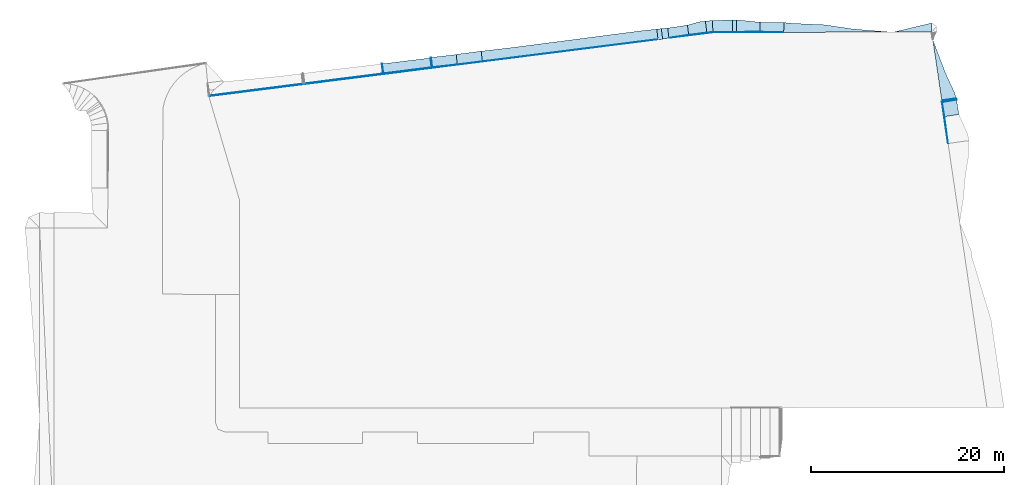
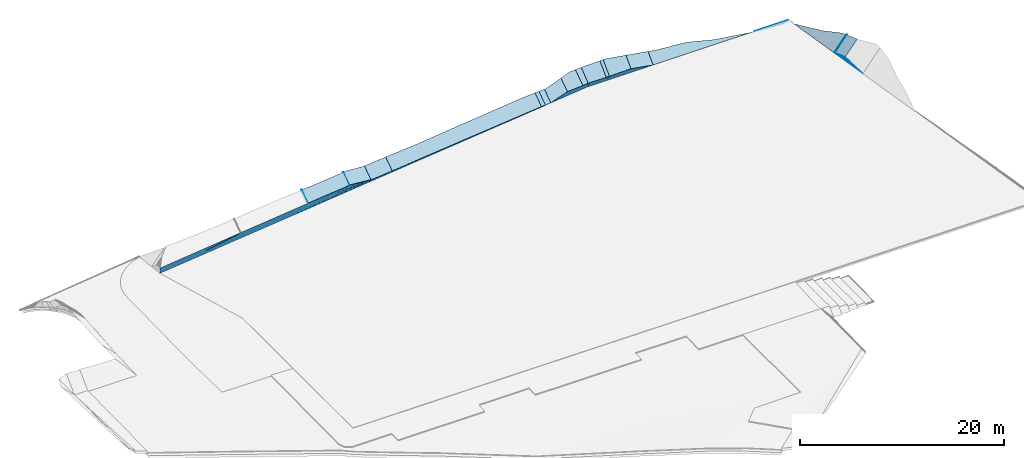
# One storey, part 6 of 14: 25 slabs.
"""IFC2X3 building model written with IfcOpenShell, lengths in metres."""

import ifcopenshell
import ifcopenshell.guid

model = None  # the IFC model being written
_history = None  # IfcOwnerHistory: only IFC2X3 demands one
_inside = {}  # id of a spatial element -> (the spatial element, [elements in it])
_under = {}  # id of a project, library or spatial element -> (it, [spatial elements below it])
_declared = {}  # id of a project -> (the project, [libraries it declares])
_typed = {}  # id of a type object -> (the type object, [elements of that type])
_made_of = {}  # id of a material, layer set ... -> (it, [elements and type objects made of it])


def new_model(schema):
    """Start an empty IFC model of exactly this schema.

    Asked for "IFC4X3", IfcOpenShell would pick the latest addendum, in which some entities
    have other attributes; the version numbers below select the first issue.
    IFC2X3 requires an IfcOwnerHistory on every rooted entity: one is made here for all.
    """
    global model, _history
    if schema == "IFC4X3":
        model = ifcopenshell.file(schema_version=(4, 3, 0, 0))
    else:
        model = ifcopenshell.file(schema=schema)
    _inside.clear()
    _under.clear()
    _declared.clear()
    _typed.clear()
    _made_of.clear()
    _history = None
    if model.schema == "IFC2X3":
        org = make("IfcOrganization", Name="unknown")
        user = make(
            "IfcPersonAndOrganization",
            ThePerson=make("IfcPerson", FamilyName="unknown"),
            TheOrganization=org,
        )
        app = make(
            "IfcApplication",
            ApplicationDeveloper=org,
            Version="unknown",
            ApplicationFullName="unknown",
            ApplicationIdentifier="unknown",
        )
        _history = make(
            "IfcOwnerHistory",
            OwningUser=user,
            OwningApplication=app,
            ChangeAction="ADDED",
            CreationDate=0,
        )
    return model


def make(cls, **values):
    """One entity of the class cls with the attributes given. An attribute that is None is left unset."""
    return model.create_entity(
        cls, **{name: value for name, value in values.items() if value is not None}
    )


def rooted(cls, **values):
    """An entity with a GlobalId (a new one), such as an element, a storey or a relation."""
    return make(cls, GlobalId=ifcopenshell.guid.new(), OwnerHistory=_history, **values)


def si_unit(unit_type, name, prefix=None):
    """IfcSIUnit, for example si_unit("LENGTHUNIT", "METRE", prefix="MILLI")."""
    return make("IfcSIUnit", UnitType=unit_type, Prefix=prefix, Name=name)


def assignment(units):
    """IfcUnitAssignment: the units of a project."""
    return None if units is None else make("IfcUnitAssignment", Units=units)


def point(xyz):
    """IfcCartesianPoint."""
    return None if xyz is None else make("IfcCartesianPoint", Coordinates=xyz)


def direction(xyz):
    """IfcDirection."""
    return None if xyz is None else make("IfcDirection", DirectionRatios=xyz)


def frame(location, z_axis=None, x_axis=None):
    """IfcAxis2Placement3D, a coordinate frame: its origin and axes. An axis left out is left unset."""
    return make(
        "IfcAxis2Placement3D",
        Location=point(location),
        Axis=direction(z_axis),
        RefDirection=direction(x_axis),
    )


def origin():
    """The frame at (0, 0, 0) with its axes left unset."""
    return frame((0.0, 0.0, 0.0))


def origin_with_axes():
    """The frame at (0, 0, 0) with the z axis (0, 0, 1) and the x axis (1, 0, 0) written out."""
    return frame((0.0, 0.0, 0.0), z_axis=(0.0, 0.0, 1.0), x_axis=(1.0, 0.0, 0.0))


def place(relative_to, where):
    """IfcLocalPlacement: puts the frame where relative to a parent placement (None: the world)."""
    return make(
        "IfcLocalPlacement", PlacementRelTo=relative_to, RelativePlacement=where
    )


def context(
    kind, dimensions, precision=None, world=None, true_north=None, identifier=None
):
    """IfcGeometricRepresentationContext, for example the 3D "Model" context."""
    return make(
        "IfcGeometricRepresentationContext",
        ContextIdentifier=identifier,
        ContextType=kind,
        CoordinateSpaceDimension=dimensions,
        Precision=precision,
        WorldCoordinateSystem=world,
        TrueNorth=true_north,
    )


def subcontext(parent, identifier, kind, view, scale=None):
    """IfcGeometricRepresentationSubContext, for example "Body" below "Model"."""
    return make(
        "IfcGeometricRepresentationSubContext",
        ContextIdentifier=identifier,
        ContextType=kind,
        ParentContext=parent,
        TargetScale=scale,
        TargetView=view,
    )


def project(units=None, contexts=None):
    """IfcProject with its units and contexts."""
    return rooted(
        "IfcProject",
        Name="project",
        RepresentationContexts=contexts,
        UnitsInContext=assignment(units),
    )


def spatial(cls, under=None, at=None, **own):
    """A site, building, storey or space (cls), placed at a placement, below another one or the project."""
    s = rooted(cls, ObjectPlacement=at, **own)
    if under is not None:
        _under.setdefault(under.id(), (under, []))[1].append(s)
    return s


def faces_of(points, faces, orient=None, outer=None):
    """IfcFace entities. A face is a list of loops; a loop is a list of indices into points, from 0.

    orient and outer hold one flag for each loop. By default every Orientation is true, the
    first loop of a face is its IfcFaceOuterBound and the others are IfcFaceBound.
    """
    made = []
    for i, loops in enumerate(faces):
        bounds = []
        for j, loop in enumerate(loops):
            is_outer = j == 0 if outer is None else outer[i][j]
            bounds.append(
                make(
                    "IfcFaceOuterBound" if is_outer else "IfcFaceBound",
                    Bound=make("IfcPolyLoop", Polygon=[points[k] for k in loop]),
                    Orientation=True if orient is None else orient[i][j],
                )
            )
        made.append(make("IfcFace", Bounds=bounds))
    return made


def faceted_brep(points, faces, orient=None, outer=None, voids=None):
    """IfcFacetedBrep: a solid bounded by flat faces; with voids (closed shells), ...WithVoids."""
    shared = [point(p) for p in points]
    hull = make("IfcClosedShell", CfsFaces=faces_of(shared, faces, orient, outer))
    if voids is None:
        return make("IfcFacetedBrep", Outer=hull)
    return make(
        "IfcFacetedBrepWithVoids",
        Outer=hull,
        Voids=[
            make(cls, CfsFaces=faces_of(shared, fs, o, b)) for cls, fs, o, b in voids
        ],
    )


def shape(context_of_items, identifier, shape_type, items):
    """IfcShapeRepresentation: the items that make up one representation, for example the "Body"."""
    return make(
        "IfcShapeRepresentation",
        ContextOfItems=context_of_items,
        RepresentationIdentifier=identifier,
        RepresentationType=shape_type,
        Items=items,
    )


def made_of(thing, what):
    """Note that an element or type object is made of a material, layer set ...; save() writes the relation."""
    if what is not None:
        _made_of.setdefault(what.id(), (what, []))[1].append(thing)
    return thing


def element(
    cls,
    number,
    at=None,
    inside=None,
    cuts=None,
    type_object=None,
    material=None,
    context=None,
    identifier="Body",
    shape_type=None,
    held_by="IfcProductDefinitionShape",
    body=None,
    shapes=None,
    **own,
):
    """One element of the class cls, such as IfcWall. Its Tag is "e" and its number.

    at: its placement. inside: the storey or other place that contains it. cuts: it is an
    opening in that element (IfcRelVoidsElement). A single representation is given by context,
    identifier, shape_type and body (its items); several are given by shapes. held_by: the class
    of the entity that holds the representations. save() writes the other relations.
    """
    e = rooted(cls, Tag="e%d" % number, ObjectPlacement=at, **own)
    if body is not None:
        shapes = [shape(context, identifier, shape_type, body)]
    if shapes is not None:
        e.Representation = make(held_by, Representations=shapes)
    if inside is not None:
        _inside.setdefault(inside.id(), (inside, []))[1].append(e)
    if cuts is not None:
        rooted(
            "IfcRelVoidsElement", RelatingBuildingElement=cuts, RelatedOpeningElement=e
        )
    if type_object is not None:
        _typed.setdefault(type_object.id(), (type_object, []))[1].append(e)
    return made_of(e, material)


def aggregate(whole, parts):
    """IfcRelAggregates: a whole, such as a stair, and the parts it consists of."""
    return rooted("IfcRelAggregates", RelatingObject=whole, RelatedObjects=parts)


def save(model, path):
    """Write the relations noted so far, then the file.

    IfcRelAggregates (storeys below a building ...), IfcRelContainedInSpatialStructure (elements
    in a storey), IfcRelDefinesByType, IfcRelAssociatesMaterial and IfcRelDeclares: one each for
    every whole, place, type object, material and project.
    """
    for whole, parts in _under.values():
        aggregate(whole, parts)
    for where, things in _inside.values():
        rooted(
            "IfcRelContainedInSpatialStructure",
            RelatedElements=things,
            RelatingStructure=where,
        )
    for kind, things in _typed.values():
        rooted("IfcRelDefinesByType", RelatedObjects=things, RelatingType=kind)
    for what, things in _made_of.values():
        rooted("IfcRelAssociatesMaterial", RelatedObjects=things, RelatingMaterial=what)
    for by, libraries in _declared.values():
        rooted("IfcRelDeclares", RelatingContext=by, RelatedDefinitions=libraries)
    model.write(path)


model = new_model("IFC2X3")

# Units and contexts
context_of_model = context(None, 3, world=origin_with_axes())
sub_context = subcontext(context_of_model, None, None, "MODEL_VIEW")
ifc_project = project(units=[si_unit("LENGTHUNIT", "METRE"), si_unit("AREAUNIT", "SQUARE_METRE"), si_unit("VOLUMEUNIT", "CUBIC_METRE"), si_unit("PLANEANGLEUNIT", "RADIAN"), si_unit("MASSUNIT", "GRAM", prefix="KILO")])

# Site, building, storey
site_placement = place(None, origin_with_axes())
site = spatial("IfcSite", under=ifc_project, at=site_placement, Name="Site.1", CompositionType="ELEMENT")
building_placement = place(site_placement, origin())
building = spatial("IfcBuilding", under=site, at=building_placement, Name="Building.1", CompositionType="ELEMENT")
storey_placement = place(building_placement, origin())
storey = spatial("IfcBuildingStorey", under=building, at=storey_placement, Name="VRD", CompositionType="ELEMENT")

# Slabs
slab_1_placement = place(storey_placement, origin())
element("IfcSlab", 1, at=slab_1_placement, inside=storey, Name="PJ FINI n°13", PredefinedType="USERDEFINED", context=sub_context, shape_type="Brep", body=[
    faceted_brep([(71.219665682, 29.436094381, 1.536953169), (71.011816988, 30.057590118, 1.421850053), (71.219666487, 29.436094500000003, 1.536953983), (69.699104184, 29.212217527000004, -1e-06), (70.068908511, 32.096943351, 0.78605598), (68.77464458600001, 35.491105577, 0.0)], [[[0, 1, 2]], [[3, 4, 1]], [[3, 5, 4]], [[3, 1, 0]]]),
])
slab_2_placement = place(storey_placement, origin())
element("IfcSlab", 2, at=slab_2_placement, inside=storey, Name="PJ FINI n°15", PredefinedType="USERDEFINED", context=sub_context, shape_type="Brep", body=[
    faceted_brep([(43.465990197, 36.002276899, 0.441514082), (41.384755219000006, 36.733859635, 1.05147208), (43.326886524, 37.027402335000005, 1.474251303), (41.411480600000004, 35.697386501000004, 0.0), (43.326729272, 37.028561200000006, 1.475418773), (41.279912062, 36.735495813, 1.046412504)], [[[0, 1, 2]], [[3, 1, 0]], [[1, 4, 2]], [[5, 1, 3]]]),
])
slab_3_placement = place(storey_placement, origin())
element("IfcSlab", 3, at=slab_3_placement, inside=storey, Name="PJ FINI n°18", PredefinedType="USERDEFINED", context=sub_context, shape_type="Brep", body=[
    faceted_brep([(48.026598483, 36.315561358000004, 0.359731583), (45.984155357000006, 36.276920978, -1e-06), (45.981759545, 36.314489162, 0.375711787), (50.83644507, 36.323669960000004, 0.404125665), (53.313898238, 36.2864924, -1e-06), (48.397914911, 36.315200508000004, 0.351274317)], [[[0, 1, 2]], [[3, 4, 5]], [[4, 1, 5]], [[1, 0, 5]]]),
])
slab_4_placement = place(storey_placement, origin())
element("IfcSlab", 4, at=slab_4_placement, inside=storey, Name="PJ FINI n°19", PredefinedType="USERDEFINED", context=sub_context, shape_type="Brep", body=[
    faceted_brep([(40.757116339, 35.614453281, -1e-06), (22.075846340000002, 33.256949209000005, 0.100537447), (40.280461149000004, 35.556484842, 0.024227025), (3.645543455, 30.97079798, 0.593393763), (-6.289270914, 29.651859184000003, -1e-06), (3.486191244, 30.9505954, 0.593329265), (19.477989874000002, 32.933415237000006, 0.157231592), (16.822964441, 32.640407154, 0.588642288), (16.88509205, 32.648401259, 0.589834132), (11.786624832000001, 32.003191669, 0.599388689), (11.814783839, 32.006759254, 0.599376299), (-6.239175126, 29.71417276, 0.555202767), (16.85113218, 32.644109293, 0.589953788)], [[[0, 1, 2]], [[3, 4, 5]], [[1, 4, 6]], [[6, 7, 8]], [[6, 9, 10]], [[6, 3, 9]], [[4, 11, 5]], [[6, 4, 3]], [[7, 12, 8]], [[1, 0, 4]], [[10, 7, 6]]]),
])
slab_5_placement = place(storey_placement, origin())
element("IfcSlab", 5, at=slab_5_placement, inside=storey, Name="PJ FINI n°21", PredefinedType="USERDEFINED", context=sub_context, shape_type="Brep", body=[
    faceted_brep([(17.210287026, 33.735694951, 1.559044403), (16.88509205, 32.648401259, 0.589834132), (16.767957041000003, 33.639857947, 1.586888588), (19.123575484, 33.950430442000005, 1.244135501), (19.477989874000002, 32.933415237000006, 0.157231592), (19.353136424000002, 33.998501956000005, 1.228063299), (19.353038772, 33.999334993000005, 1.228900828), (16.767870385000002, 33.640591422, 1.587626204)], [[[0, 1, 2]], [[0, 3, 4]], [[5, 3, 6]], [[2, 7, 0]], [[4, 3, 5]], [[4, 1, 0]]]),
])
slab_6_placement = place(storey_placement, origin())
element("IfcSlab", 6, at=slab_6_placement, inside=storey, Name="PJ FINI n°25", PredefinedType="USERDEFINED", context=sub_context, shape_type="Brep", body=[
    faceted_brep([(16.822964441, 32.640407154, 0.588642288), (16.723491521, 33.63428656, 1.588233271), (16.85113218, 32.644109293, 0.589953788), (16.695136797, 33.631499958, 1.587850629), (16.723484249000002, 33.634342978, 1.588290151), (16.695129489, 33.631556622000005, 1.587907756)], [[[0, 1, 2]], [[3, 4, 1]], [[0, 3, 1]], [[4, 3, 5]]]),
])
slab_7_placement = place(storey_placement, origin())
element("IfcSlab", 7, at=slab_7_placement, inside=storey, Name="PJ FINI n°28", PredefinedType="USERDEFINED", context=sub_context, shape_type="Brep", body=[
    faceted_brep([(64.659722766, 36.301308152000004, -2.261e-06), (68.653354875, 37.250817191, -0.944294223), (68.653354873, 37.250817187, -0.94429422), (68.654587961, 36.306524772, -1e-06)], [[[0, 1, 2]], [[3, 0, 2]]]),
])
slab_8_placement = place(storey_placement, origin())
element("IfcSlab", 8, at=slab_8_placement, inside=storey, Name="PJ FINI n°30", PredefinedType="USERDEFINED", context=sub_context, shape_type="Brep", body=[
    faceted_brep([(40.149574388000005, 36.612322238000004, 1.088131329), (40.280461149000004, 35.556484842, 0.024227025), (38.800329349, 36.477791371, 1.129385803), (25.307141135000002, 34.723131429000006, 1.136115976), (22.075846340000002, 33.256949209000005, 0.100537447), (21.941441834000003, 34.328521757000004, 1.180478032)], [[[0, 1, 2]], [[2, 1, 3]], [[4, 5, 3]], [[1, 4, 3]]]),
])
slab_9_placement = place(storey_placement, origin())
element("IfcSlab", 9, at=slab_9_placement, inside=storey, Name="PJ FINI n°34", PredefinedType="USERDEFINED", context=sub_context, shape_type="Brep", body=[
    faceted_brep([(45.342961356, 36.23320235, 0.372473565), (45.984155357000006, 36.276920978, -1e-06), (43.465990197, 36.002276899, 0.441514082), (45.981759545, 36.314489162, 0.375711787), (41.411480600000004, 35.697386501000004, 0.0)], [[[0, 1, 2]], [[0, 3, 1]], [[4, 2, 1]]]),
])
slab_10_placement = place(storey_placement, origin())
element("IfcSlab", 10, at=slab_10_placement, inside=storey, Name="PJ FINI n°35", PredefinedType="USERDEFINED", context=sub_context, shape_type="Brep", body=[
    faceted_brep([(11.814783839, 32.006759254, 0.599376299), (11.786624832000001, 32.003191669, 0.599388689), (11.686778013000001, 33.017796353, 1.61848443), (11.658443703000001, 33.014454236, 1.618742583)], [[[0, 1, 2]], [[1, 3, 2]]]),
])
slab_11_placement = place(storey_placement, origin())
element("IfcSlab", 11, at=slab_11_placement, inside=storey, Name="PJ FINI n°38", PredefinedType="USERDEFINED", context=sub_context, shape_type="Brep", body=[
    faceted_brep([(11.686778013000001, 33.017796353, 1.618484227), (13.466610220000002, 33.229390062, 1.601185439), (11.814783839, 32.006759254, 0.599376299), (16.822964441, 32.640407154, 0.588642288), (16.695136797, 33.631499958, 1.587946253), (11.686777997, 33.017796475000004, 1.61848435)], [[[0, 1, 2]], [[3, 1, 4]], [[2, 1, 3]], [[0, 5, 1]]]),
])
slab_12_placement = place(storey_placement, origin())
element("IfcSlab", 12, at=slab_12_placement, inside=storey, Name="PJ FINI n°40", PredefinedType="USERDEFINED", context=sub_context, shape_type="Brep", body=[
    faceted_brep([(69.699104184, 29.212217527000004, 0.0), (71.22769807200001, 29.294700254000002, 1.566583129), (69.731827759, 29.031848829, 0.061014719), (71.219665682, 29.436094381, 1.536953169), (71.231071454, 29.295293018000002, 1.569978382)], [[[0, 1, 2]], [[3, 4, 1]], [[3, 1, 0]]]),
])
slab_13_placement = place(storey_placement, origin())
element("IfcSlab", 13, at=slab_13_placement, inside=storey, Name="PJ FINI n°41", PredefinedType="USERDEFINED", context=sub_context, shape_type="Brep", body=[
    faceted_brep([(53.313898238, 36.2864924, -1e-06), (50.83644507, 36.323669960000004, 0.404125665), (53.320823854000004, 37.297559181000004, 1.009845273), (50.842245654, 37.329650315, 1.40905313), (53.320828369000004, 37.298218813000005, 1.010504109), (50.842249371, 37.330295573, 1.409697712)], [[[0, 1, 2]], [[2, 3, 4]], [[3, 2, 1]], [[4, 3, 5]]]),
])
slab_14_placement = place(storey_placement, origin())
element("IfcSlab", 14, at=slab_14_placement, inside=storey, Name="PJ FINI n°52", PredefinedType="USERDEFINED", context=sub_context, shape_type="Brep", body=[
    faceted_brep([(69.731827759, 29.031848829, 0.061014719), (69.98401667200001, 27.548569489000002, 0.395421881), (70.354932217, 24.757863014, -1e-06), (69.699104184, 29.212217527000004, 0.0)], [[[0, 1, 2]], [[3, 0, 2]]]),
])
slab_15_placement = place(storey_placement, origin())
element("IfcSlab", 15, at=slab_15_placement, inside=storey, Name="PJ FINI n°57", PredefinedType="USERDEFINED", context=sub_context, shape_type="Brep", body=[
    faceted_brep([(22.075846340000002, 33.256949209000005, 0.100537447), (19.353136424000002, 33.998501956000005, 1.228063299), (21.941441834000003, 34.328521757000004, 1.180478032), (19.477989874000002, 32.933415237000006, 0.157231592), (21.941440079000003, 34.328535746, 1.180492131)], [[[0, 1, 2]], [[0, 3, 1]], [[2, 1, 4]]]),
])
slab_16_placement = place(storey_placement, origin())
element("IfcSlab", 16, at=slab_16_placement, inside=storey, Name="PJ FINI n°62", PredefinedType="USERDEFINED", context=sub_context, shape_type="Brep", body=[
    faceted_brep([(48.026598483, 36.315561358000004, 0.359731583), (48.026875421, 37.553349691, 1.597479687), (48.397914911, 36.315200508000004, 0.351274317), (48.396355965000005, 37.561682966, 1.597756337), (48.02687542, 37.553362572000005, 1.597492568), (48.396355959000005, 37.561684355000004, 1.597757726)], [[[0, 1, 2]], [[2, 1, 3]], [[1, 4, 3]], [[3, 4, 5]]]),
])
slab_17_placement = place(storey_placement, origin())
element("IfcSlab", 17, at=slab_17_placement, inside=storey, Name="PJ FINI n°63", PredefinedType="USERDEFINED", context=sub_context, shape_type="Brep", body=[
    faceted_brep([(40.625825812, 36.671746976, 1.065287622), (41.279911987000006, 36.735496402, 1.046413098), (41.279912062, 36.735495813, 1.046412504), (41.411480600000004, 35.697386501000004, -1e-06), (40.757116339, 35.614453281, -2e-06)], [[[0, 1, 2]], [[3, 4, 2]], [[4, 0, 2]]]),
])
slab_18_placement = place(storey_placement, origin())
element("IfcSlab", 18, at=slab_18_placement, inside=storey, Name="PJ FINI n°64", PredefinedType="USERDEFINED", context=sub_context, shape_type="Brep", body=[
    faceted_brep([(45.191533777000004, 37.443270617, 1.591915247), (45.191538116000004, 37.443235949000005, 1.59188031), (44.522515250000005, 37.368441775, 1.62391455), (45.342961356, 36.23320235, 0.372473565), (43.465990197, 36.002276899, 0.441514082), (43.326886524, 37.027402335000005, 1.474251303)], [[[0, 1, 2]], [[2, 3, 4]], [[2, 4, 5]], [[2, 1, 3]]]),
])
slab_19_placement = place(storey_placement, origin())
element("IfcSlab", 19, at=slab_19_placement, inside=storey, Name="PJ FINI n°65", PredefinedType="USERDEFINED", context=sub_context, shape_type="Brep", body=[
    faceted_brep([(53.313898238, 36.2864924, -2e-06), (53.320823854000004, 37.297559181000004, 1.009845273), (54.21695853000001, 37.214218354, 0.926543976), (57.56492438, 37.064406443, 0.772360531), (64.197995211, 36.329491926, 0.028785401), (64.659712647, 36.301308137, -1.261e-06), (60.4384285, 36.63284899, 0.337051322)], [[[0, 1, 2]], [[0, 2, 3]], [[4, 5, 0]], [[0, 3, 6]], [[6, 4, 0]]]),
])
slab_20_placement = place(storey_placement, origin())
element("IfcSlab", 20, at=slab_20_placement, inside=storey, Name="PJ FINI n°66", PredefinedType="USERDEFINED", context=sub_context, shape_type="Brep", body=[
    faceted_brep([(50.83644507, 36.323669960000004, 0.404125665), (48.598811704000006, 37.562150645, 1.601911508), (50.842245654, 37.329650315, 1.410236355), (48.397914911, 36.315200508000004, 0.351274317), (48.396355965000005, 37.561682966, 1.597756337)], [[[0, 1, 2]], [[0, 3, 1]], [[1, 3, 4]]]),
])
slab_21_placement = place(storey_placement, origin())
element("IfcSlab", 21, at=slab_21_placement, inside=storey, Name="PJ FINI n°69", PredefinedType="USERDEFINED", context=sub_context, shape_type="Brep", body=[
    faceted_brep([(45.981759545, 36.314489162, 0.375711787), (45.342961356, 36.23320235, 0.372473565), (45.191538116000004, 37.443235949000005, 1.59188031), (45.90569362, 37.509882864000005, 1.571521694), (45.905687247, 37.509983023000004, 1.571621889)], [[[0, 1, 2]], [[2, 3, 0]], [[3, 2, 4]]]),
])
slab_22_placement = place(storey_placement, origin())
element("IfcSlab", 22, at=slab_22_placement, inside=storey, Name="PJ FINI n°75", PredefinedType="USERDEFINED", context=sub_context, shape_type="Brep", body=[
    faceted_brep([(48.026598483, 36.315561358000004, 0.359731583), (45.981759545, 36.314489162, 0.375711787), (46.357238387, 37.527104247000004, 1.585183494), (48.026875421, 37.553349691, 1.597505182), (45.90569362, 37.509882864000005, 1.571521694)], [[[0, 1, 2]], [[3, 0, 2]], [[1, 4, 2]]]),
])
slab_23_placement = place(storey_placement, origin())
element("IfcSlab", 23, at=slab_23_placement, inside=storey, Name="PJ FINI n°79", PredefinedType="USERDEFINED", context=sub_context, shape_type="Brep", body=[
    faceted_brep([(40.149574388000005, 36.612322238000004, 1.088010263), (40.625825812, 36.671746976, 1.065287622), (40.280461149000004, 35.556484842, 0.024227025), (40.625816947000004, 36.671818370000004, 1.065359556), (40.149565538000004, 36.612393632, 1.088082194), (40.757116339, 35.614453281, -1e-06)], [[[0, 1, 2]], [[3, 1, 4]], [[4, 1, 0]], [[5, 2, 1]]]),
])
slab_24_placement = place(storey_placement, origin())
element("IfcSlab", 24, at=slab_24_placement, inside=storey, Name="PJ FINI n°80", PredefinedType="USERDEFINED", context=sub_context, shape_type="Brep", body=[
    faceted_brep([(71.22769807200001, 29.294700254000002, 1.566583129), (69.98401667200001, 27.548569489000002, 0.395421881), (69.731827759, 29.031848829, 0.061014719), (71.47585006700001, 27.774455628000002, 1.903012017), (71.474230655, 27.774210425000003, 1.901375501)], [[[0, 1, 2]], [[0, 3, 4]], [[0, 4, 1]]]),
])
slab_25_placement = place(storey_placement, origin())
element("IfcSlab", 25, at=slab_25_placement, inside=storey, Name="PJ FINI n°102", PredefinedType="USERDEFINED", context=sub_context, shape_type="Brep", body=[
    faceted_brep([(16.85113218, 32.644109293, 0.589953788), (16.723491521, 33.63428656, 1.588233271), (16.88509205, 32.648401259, 0.589834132), (16.767957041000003, 33.639857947, 1.588123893)], [[[0, 1, 2]], [[1, 3, 2]]]),
])

save(model, "model.ifc")
